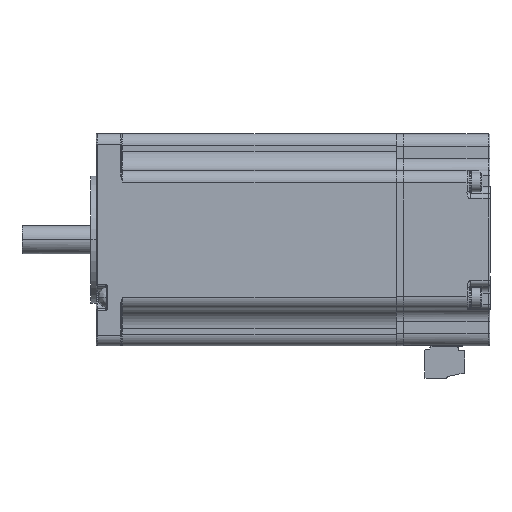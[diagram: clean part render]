
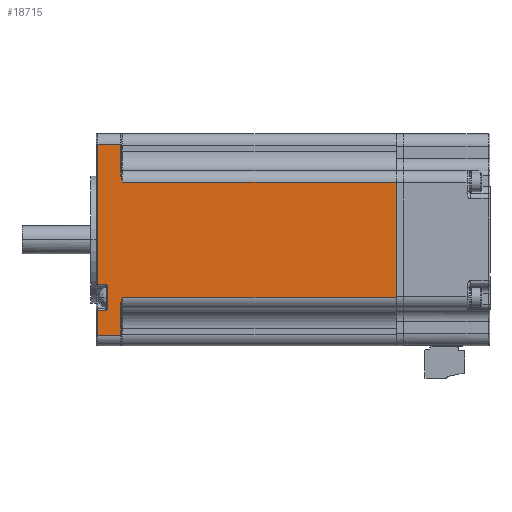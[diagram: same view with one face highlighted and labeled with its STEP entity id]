
A CAD part, left-side view. The second image highlights one B-rep face of the part: STEP entity #18715.
In plain terms, the highlighted planar face has unit normal (-1, 0, 0).
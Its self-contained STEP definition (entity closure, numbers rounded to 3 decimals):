
#405=DIRECTION('',(0.,1.,0.));
#406=VECTOR('',#405,77.5);
#407=CARTESIAN_POINT('',(-3.334,-12.92,66.755));
#408=LINE('',#407,#406);
#419=CARTESIAN_POINT('',(-3.334,64.58,34.055));
#420=CARTESIAN_POINT('',(-3.334,64.613,33.981));
#421=CARTESIAN_POINT('',(-3.334,64.68,33.832));
#422=CARTESIAN_POINT('',(-3.334,64.782,33.601));
#423=CARTESIAN_POINT('',(-3.334,64.847,33.444));
#424=CARTESIAN_POINT('',(-3.334,64.88,33.361));
#429=CARTESIAN_POINT('',(-3.334,64.88,33.361));
#430=CARTESIAN_POINT('',(-3.334,64.942,33.209));
#431=CARTESIAN_POINT('',(-3.334,65.046,32.912));
#432=CARTESIAN_POINT('',(-3.334,65.155,32.481));
#433=CARTESIAN_POINT('',(-3.334,65.179,32.211));
#434=CARTESIAN_POINT('',(-3.334,65.18,32.08));
#439=CARTESIAN_POINT('',(-3.334,69.38,31.105));
#440=DIRECTION('',(-1.,0.,0.));
#441=DIRECTION('',(0.,0.,-1.));
#442=AXIS2_PLACEMENT_3D('',#439,#440,#441);
#447=CARTESIAN_POINT('',(-3.334,69.38,37.005));
#448=DIRECTION('',(-1.,0.,0.));
#449=DIRECTION('',(0.,-1.,0.));
#450=AXIS2_PLACEMENT_3D('',#447,#448,#449);
#455=DIRECTION('',(0.,0.,-1.));
#456=VECTOR('',#455,8.675);
#457=CARTESIAN_POINT('',(-3.334,65.18,77.405));
#458=LINE('',#457,#456);
#462=CARTESIAN_POINT('',(-3.334,65.18,68.73));
#463=CARTESIAN_POINT('',(-3.334,65.179,68.598));
#464=CARTESIAN_POINT('',(-3.334,65.155,68.329));
#465=CARTESIAN_POINT('',(-3.334,65.047,67.898));
#466=CARTESIAN_POINT('',(-3.334,64.942,67.6));
#467=CARTESIAN_POINT('',(-3.334,64.88,67.448));
#472=CARTESIAN_POINT('',(-3.334,64.88,67.448));
#473=CARTESIAN_POINT('',(-3.334,64.857,67.389));
#474=CARTESIAN_POINT('',(-3.334,64.809,67.274));
#475=CARTESIAN_POINT('',(-3.334,64.736,67.104));
#476=CARTESIAN_POINT('',(-3.334,64.66,66.932));
#477=CARTESIAN_POINT('',(-3.334,64.607,66.815));
#478=CARTESIAN_POINT('',(-3.334,64.58,66.755));
#483=DIRECTION('',(0.,0.,1.));
#484=VECTOR('',#483,32.7);
#485=CARTESIAN_POINT('',(-3.334,-12.92,34.055));
#486=LINE('',#485,#484);
#490=DIRECTION('',(0.,-1.,0.));
#491=VECTOR('',#490,77.5);
#492=CARTESIAN_POINT('',(-3.334,64.58,34.055));
#493=LINE('',#492,#491);
#960=DIRECTION('',(0.,1.,0.));
#961=VECTOR('',#960,6.6);
#962=CARTESIAN_POINT('',(-3.334,65.18,77.405));
#963=LINE('',#962,#961);
#1005=DIRECTION('',(0.,0.,-1.));
#1006=VECTOR('',#1005,39.8);
#1007=CARTESIAN_POINT('',(-3.334,71.78,77.405));
#1008=LINE('',#1007,#1006);
#1777=DIRECTION('',(0.,-1.,0.));
#1778=VECTOR('',#1777,6.6);
#1779=CARTESIAN_POINT('',(-3.334,71.78,23.405));
#1780=LINE('',#1779,#1778);
#2025=DIRECTION('',(0.,0.,1.));
#2026=VECTOR('',#2025,8.675);
#2027=CARTESIAN_POINT('',(-3.334,65.18,23.405));
#2028=LINE('',#2027,#2026);
#2114=DIRECTION('',(0.,0.,-1.));
#2115=VECTOR('',#2114,7.1);
#2116=CARTESIAN_POINT('',(-3.334,71.78,30.505));
#2117=LINE('',#2116,#2115);
#2256=DIRECTION('',(0.,1.,0.));
#2257=VECTOR('',#2256,2.4);
#2258=CARTESIAN_POINT('',(-3.334,69.38,30.505));
#2259=LINE('',#2258,#2257);
#2301=DIRECTION('',(0.,0.,-1.));
#2302=VECTOR('',#2301,5.9);
#2303=CARTESIAN_POINT('',(-3.334,68.78,37.005));
#2304=LINE('',#2303,#2302);
#2339=DIRECTION('',(0.,-1.,0.));
#2340=VECTOR('',#2339,2.4);
#2341=CARTESIAN_POINT('',(-3.334,71.78,37.605));
#2342=LINE('',#2341,#2340);
#17170=CARTESIAN_POINT('',(-3.334,-12.92,
66.755));
#17171=VERTEX_POINT('',#17170);
#17172=CARTESIAN_POINT('',(-3.334,-12.92,
34.055));
#17173=VERTEX_POINT('',#17172);
#17706=CARTESIAN_POINT('',(-3.334,65.18,
77.405));
#17707=CARTESIAN_POINT('',(-3.334,65.18,
68.73));
#17708=VERTEX_POINT('',#17706);
#17709=VERTEX_POINT('',#17707);
#17710=VERTEX_POINT('',#467);
#17711=CARTESIAN_POINT('',(-3.334,71.78,
77.405));
#17712=VERTEX_POINT('',#17711);
#17713=CARTESIAN_POINT('',(-3.334,71.78,
37.605));
#17714=VERTEX_POINT('',#17713);
#17715=CARTESIAN_POINT('',(-3.334,69.38,
37.605));
#17716=VERTEX_POINT('',#17715);
#17717=CARTESIAN_POINT('',(-3.334,68.78,
37.005));
#17718=VERTEX_POINT('',#17717);
#17719=CARTESIAN_POINT('',(-3.334,68.78,
31.105));
#17720=VERTEX_POINT('',#17719);
#17721=CARTESIAN_POINT('',(-3.334,69.38,
30.505));
#17722=VERTEX_POINT('',#17721);
#17723=CARTESIAN_POINT('',(-3.334,71.78,
30.505));
#17724=VERTEX_POINT('',#17723);
#17725=CARTESIAN_POINT('',(-3.334,71.78,
23.405));
#17726=VERTEX_POINT('',#17725);
#17727=CARTESIAN_POINT('',(-3.334,65.18,
23.405));
#17728=VERTEX_POINT('',#17727);
#17729=CARTESIAN_POINT('',(-3.334,65.18,32.08));
#17730=VERTEX_POINT('',#17729);
#17731=VERTEX_POINT('',#429);
#17732=VERTEX_POINT('',#419);
#17733=VERTEX_POINT('',#478);
#18674=CARTESIAN_POINT('',(-3.334,29.83,
50.405));
#18675=DIRECTION('',(1.,0.,0.));
#18676=DIRECTION('',(0.,0.,-1.));
#18677=AXIS2_PLACEMENT_3D('',#18674,#18675,#18676);
#18678=PLANE('',#18677);
#18680=ORIENTED_EDGE('',*,*,#18679,.F.);
#18682=ORIENTED_EDGE('',*,*,#18681,.T.);
#18684=ORIENTED_EDGE('',*,*,#18683,.T.);
#18686=ORIENTED_EDGE('',*,*,#18685,.F.);
#18688=ORIENTED_EDGE('',*,*,#18687,.F.);
#18690=ORIENTED_EDGE('',*,*,#18689,.F.);
#18692=ORIENTED_EDGE('',*,*,#18691,.F.);
#18694=ORIENTED_EDGE('',*,*,#18693,.T.);
#18696=ORIENTED_EDGE('',*,*,#18695,.F.);
#18698=ORIENTED_EDGE('',*,*,#18697,.T.);
#18700=ORIENTED_EDGE('',*,*,#18699,.F.);
#18702=ORIENTED_EDGE('',*,*,#18701,.F.);
#18704=ORIENTED_EDGE('',*,*,#18703,.F.);
#18706=ORIENTED_EDGE('',*,*,#18705,.T.);
#18708=ORIENTED_EDGE('',*,*,#18707,.T.);
#18710=ORIENTED_EDGE('',*,*,#18709,.T.);
#18711=ORIENTED_EDGE('',*,*,#18658,.F.);
#18712=ORIENTED_EDGE('',*,*,#18519,.F.);
#18713=EDGE_LOOP('',(#18680,#18682,#18684,#18686,#18688,#18690,#18692,#18694,
#18696,#18698,#18700,#18702,#18704,#18706,#18708,#18710,#18711,#18712));
#18714=FACE_OUTER_BOUND('',#18713,.F.);
#18715=ADVANCED_FACE('',(#18714),#18678,.F.);
#425=B_SPLINE_CURVE_WITH_KNOTS('',3,(#419,#420,#421,#422,#423,#424),
.UNSPECIFIED.,.F.,.F.,(4,1,1,4),(0.,0.323,0.65,1.),
.UNSPECIFIED.);
#435=B_SPLINE_CURVE_WITH_KNOTS('',3,(#429,#430,#431,#432,#433,#434),
.UNSPECIFIED.,.F.,.F.,(4,1,1,4),(0.,0.333,0.667,1.),
.UNSPECIFIED.);
#443=CIRCLE('',#442,0.6);
#451=CIRCLE('',#450,0.6);
#468=B_SPLINE_CURVE_WITH_KNOTS('',3,(#462,#463,#464,#465,#466,#467),
.UNSPECIFIED.,.F.,.F.,(4,1,1,4),(0.,0.333,0.667,1.),
.UNSPECIFIED.);
#479=B_SPLINE_CURVE_WITH_KNOTS('',3,(#472,#473,#474,#475,#476,#477,#478),
.UNSPECIFIED.,.F.,.F.,(4,1,1,1,4),(0.,0.251,0.491,
0.736,1.),.UNSPECIFIED.);
#18519=EDGE_CURVE('',#17173,#17171,#486,.T.);
#18658=EDGE_CURVE('',#17171,#17733,#408,.T.);
#18679=EDGE_CURVE('',#17732,#17173,#493,.T.);
#18681=EDGE_CURVE('',#17732,#17731,#425,.T.);
#18683=EDGE_CURVE('',#17731,#17730,#435,.T.);
#18685=EDGE_CURVE('',#17728,#17730,#2028,.T.);
#18687=EDGE_CURVE('',#17726,#17728,#1780,.T.);
#18689=EDGE_CURVE('',#17724,#17726,#2117,.T.);
#18691=EDGE_CURVE('',#17722,#17724,#2259,.T.);
#18693=EDGE_CURVE('',#17722,#17720,#443,.T.);
#18695=EDGE_CURVE('',#17718,#17720,#2304,.T.);
#18697=EDGE_CURVE('',#17718,#17716,#451,.T.);
#18699=EDGE_CURVE('',#17714,#17716,#2342,.T.);
#18701=EDGE_CURVE('',#17712,#17714,#1008,.T.);
#18703=EDGE_CURVE('',#17708,#17712,#963,.T.);
#18705=EDGE_CURVE('',#17708,#17709,#458,.T.);
#18707=EDGE_CURVE('',#17709,#17710,#468,.T.);
#18709=EDGE_CURVE('',#17710,#17733,#479,.T.);
